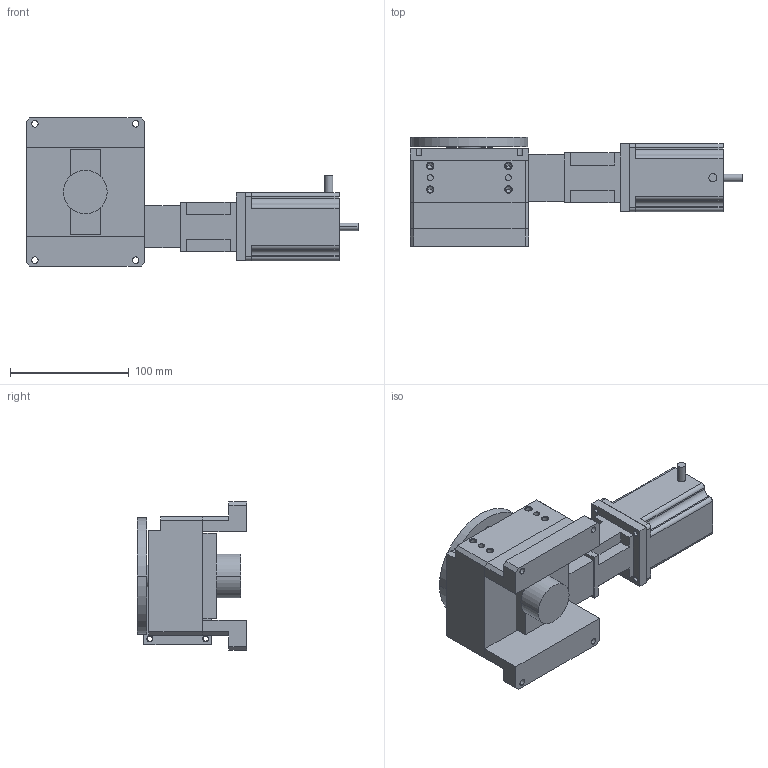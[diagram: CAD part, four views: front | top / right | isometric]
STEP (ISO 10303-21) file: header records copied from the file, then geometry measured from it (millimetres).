
FILE_DESCRIPTION((''),'2;1');
FILE_NAME('R100M6MP3E1_ASM','2009-07-02T',('FK20128'),(''),'PRO/ENGINEER BY PARAMETRIC TECHNOLOGY CORPORATION, 2006200','PRO/ENGINEER BY PARAMETRIC TECHNOLOGY CORPORATION, 2006200','');
FILE_SCHEMA(('CONFIG_CONTROL_DESIGN'));
Length unit declared in the file: millimetre
Products named in the file (8): R100M; R100M-M22; RXXXM-HV233; R100M-ENCODER-BRKT; RXXXM-ENCODER; R100M-ENCODER-STANDOFF; R100M-E1_ASM; R100M6MP3E1_ASM
Assembly tree (8 placements, depth 3):
  R100M6MP3E1_ASM
    R100M
    R100M-M22
    RXXXM-HV233
    R100M-E1_ASM
      R100M-ENCODER-BRKT
      RXXXM-ENCODER
      R100M-ENCODER-STANDOFF  x2
Bounding box: 279.89 x 92.01 x 125 mm (x, y, z)
Volume: 996461.7 mm3; surface area: 157400.4 mm2
Topology: 7 solids, 29 shells, 355 faces, 894 edges, 598 vertices
Faces by surface type: cylinder 184, plane 149, cone 22
Entity records: 10223 total; most frequent: DIRECTION 1916, CARTESIAN_POINT 1715, ORIENTED_EDGE 1544, EDGE_CURVE 812, AXIS2_PLACEMENT_3D 751, VERTEX_POINT 550, EDGE_LOOP 428, VECTOR 414
